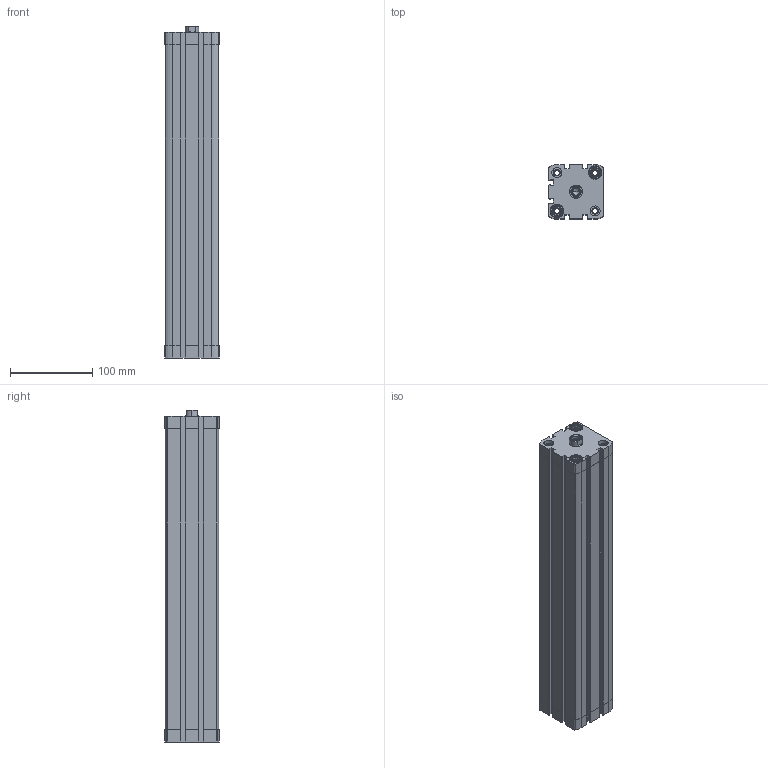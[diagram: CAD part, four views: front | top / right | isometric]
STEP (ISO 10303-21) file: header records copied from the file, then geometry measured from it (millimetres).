
FILE_DESCRIPTION (( 'STEP AP203' ), '1' );
FILE_NAME ('CCN50-350F.STEP', '2017-04-06T12:57:15', ( '' ), ( '' ), 'SwSTEP 2.0', 'SolidWorks 2016', '' );
FILE_SCHEMA (( 'CONFIG_CONTROL_DESIGN' ));
Length unit declared in the file: millimetre
Products named in the file (3): CCN-350----(Z); CCN-350_(KS); CCN50-350F
Assembly tree (2 placements, depth 2):
  CCN50-350F
    CCN-350----(Z)
    CCN-350_(KS)
Bounding box: 65.5 x 65.5 x 402.7 mm (x, y, z)
Volume: 903723.4 mm3; surface area: 259624.2 mm2
Topology: 2 solids, 2 shells, 471 faces, 1270 edges, 833 vertices
Faces by surface type: plane 219, cylinder 210, cone 42
Entity records: 15269 total; most frequent: CARTESIAN_POINT 2871, DIRECTION 2588, ORIENTED_EDGE 2536, EDGE_CURVE 1268, AXIS2_PLACEMENT_3D 942, VERTEX_POINT 833, LINE 704, VECTOR 704
